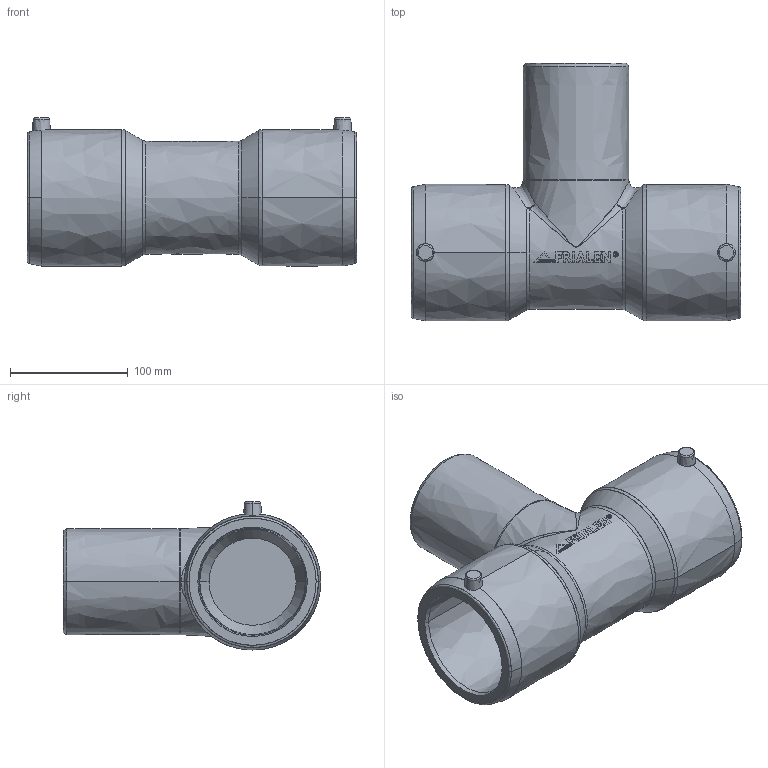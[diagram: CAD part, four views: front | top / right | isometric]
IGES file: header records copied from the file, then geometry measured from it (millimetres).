
Start section:  PTC IGES file: ta_d90_d90_01.igs
Global section: file name: ta_d90_d90_01.igs; native system: Creo Parametric by PTC Inc.; preprocessor: 2019030; author: jungmang; organization: Unknown; date: 20201221.163814; units: millimetre
Bounding box: 280 x 219 x 125.83 mm (x, y, z)
Surface area: 205231 mm2 (no closed solid volume)
Topology: 0 solids, 0 shells, 277 faces, 1386 edges, 1386 vertices
Faces by surface type: bspline 277
